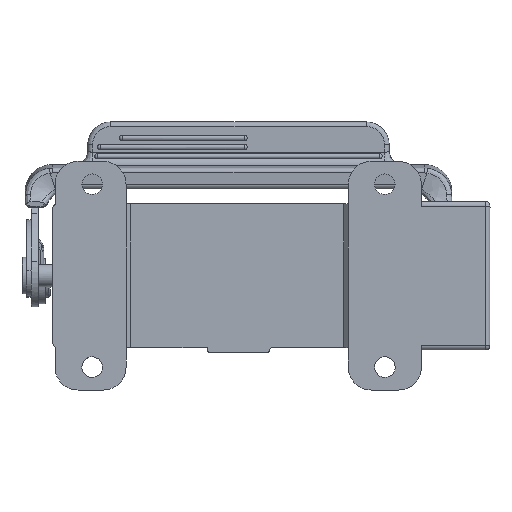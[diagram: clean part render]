
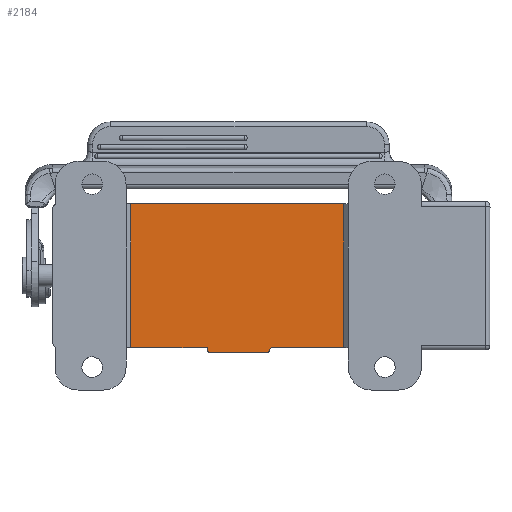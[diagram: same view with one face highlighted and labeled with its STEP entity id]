
A CAD part, front view. The second image highlights one B-rep face of the part: STEP entity #2184.
In plain terms, the highlighted planar face has unit normal (0, -1, 0).
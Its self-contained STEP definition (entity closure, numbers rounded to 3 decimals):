
#421 = VECTOR ( 'NONE', #30953, 1000. ) ;
#2184 = ADVANCED_FACE ( 'NONE', ( #8416 ), #13503, .F. ) ;
#2457 = DIRECTION ( 'NONE',  ( -1., 0., 0. ) ) ;
#2558 = CARTESIAN_POINT ( 'NONE',  ( -2.8, -57.5, 15.727 ) ) ;
#2633 = CARTESIAN_POINT ( 'NONE',  ( -6.848, -57.5, -16.228 ) ) ;
#2960 = VECTOR ( 'NONE', #37948, 1000. ) ;
#4666 = VERTEX_POINT ( 'NONE', #27623 ) ;
#4748 = LINE ( 'NONE', #2558, #2960 ) ;
#5296 = ORIENTED_EDGE ( 'NONE', *, *, #46732, .F. ) ;
#5665 = EDGE_CURVE ( 'NONE', #6158, #9005, #44951, .T. ) ;
#6158 = VERTEX_POINT ( 'NONE', #33244 ) ;
#6347 = CARTESIAN_POINT ( 'NONE',  ( -23.6, -57.5, 15.727 ) ) ;
#8416 = FACE_OUTER_BOUND ( 'NONE', #9937, .T. ) ;
#9005 = VERTEX_POINT ( 'NONE', #2633 ) ;
#9429 = ORIENTED_EDGE ( 'NONE', *, *, #5665, .F. ) ;
#9937 = EDGE_LOOP ( 'NONE', ( #46971, #19804, #9429, #32932, #50491, #19765, #34633, #41178, #5296, #19544 ) ) ;
#10084 = VERTEX_POINT ( 'NONE', #16036 ) ;
#10873 = LINE ( 'NONE', #50943, #421 ) ;
#10910 = CARTESIAN_POINT ( 'NONE',  ( 7.09, -57.5, -15.78 ) ) ;
#11439 = CARTESIAN_POINT ( 'NONE',  ( 6.951, -57.5, -15.921 ) ) ;
#11609 = CARTESIAN_POINT ( 'NONE',  ( 7.348, -57.5, -15.727 ) ) ;
#11640 = CARTESIAN_POINT ( 'NONE',  ( -6.479, -57.5, -16.728 ) ) ;
#13503 = PLANE ( 'NONE',  #22951 ) ;
#14044 = CARTESIAN_POINT ( 'NONE',  ( -23.6, -57.5, -0.5 ) ) ;
#14442 = CARTESIAN_POINT ( 'NONE',  ( 6.609, -57.5, -16.674 ) ) ;
#14983 = CARTESIAN_POINT ( 'NONE',  ( 6.848, -57.5, -16.228 ) ) ;
#15146 = CARTESIAN_POINT ( 'NONE',  ( 6.848, -57.5, -16.359 ) ) ;
#15232 = CARTESIAN_POINT ( 'NONE',  ( 6.348, -57.5, -16.728 ) ) ;
#16036 = CARTESIAN_POINT ( 'NONE',  ( 23., -57.5, 15.727 ) ) ;
#16038 = CARTESIAN_POINT ( 'NONE',  ( 6.848, -57.5, -16.228 ) ) ;
#16491 = VERTEX_POINT ( 'NONE', #24582 ) ;
#17036 = LINE ( 'NONE', #41774, #25590 ) ;
#18316 = VERTEX_POINT ( 'NONE', #6347 ) ;
#18838 = CARTESIAN_POINT ( 'NONE',  ( 6.915, -57.5, -15.975 ) ) ;
#19193 = CARTESIAN_POINT ( 'NONE',  ( 6.864, -57.5, -16.097 ) ) ;
#19544 = ORIENTED_EDGE ( 'NONE', *, *, #42336, .F. ) ;
#19765 = ORIENTED_EDGE ( 'NONE', *, *, #38794, .T. ) ;
#19804 = ORIENTED_EDGE ( 'NONE', *, *, #35290, .T. ) ;
#20981 = VECTOR ( 'NONE', #30226, 1000. ) ;
#21251 = DIRECTION ( 'NONE',  ( 0., 0., -1. ) ) ;
#22519 = VECTOR ( 'NONE', #40778, 1000. ) ;
#22951 = AXIS2_PLACEMENT_3D ( 'NONE', #36890, #29155, #40818 ) ;
#23027 = CARTESIAN_POINT ( 'NONE',  ( -6.848, -57.5, -15.727 ) ) ;
#23046 = CARTESIAN_POINT ( 'NONE',  ( 6.794, -57.5, -16.489 ) ) ;
#23498 = CARTESIAN_POINT ( 'NONE',  ( -6.348, -57.5, -16.728 ) ) ;
#24108 = CARTESIAN_POINT ( 'NONE',  ( -0.3, -57.5, -16.728 ) ) ;
#24582 = CARTESIAN_POINT ( 'NONE',  ( 7.348, -57.5, -15.727 ) ) ;
#24680 = LINE ( 'NONE', #14044, #20981 ) ;
#25590 = VECTOR ( 'NONE', #2457, 1000. ) ;
#26436 = VERTEX_POINT ( 'NONE', #15232 ) ;
#27623 = CARTESIAN_POINT ( 'NONE',  ( 23., -57.5, -15.727 ) ) ;
#27807 = VERTEX_POINT ( 'NONE', #16038 ) ;
#28555 = DIRECTION ( 'NONE',  ( -1., 0., 0. ) ) ;
#28720 = VERTEX_POINT ( 'NONE', #28909 ) ;
#28909 = CARTESIAN_POINT ( 'NONE',  ( -23.6, -57.5, -15.727 ) ) ;
#29155 = DIRECTION ( 'NONE',  ( 0., 1., 0. ) ) ;
#29475 = EDGE_CURVE ( 'NONE', #26436, #6158, #40802, .T. ) ;
#29566 = LINE ( 'NONE', #36713, #38176 ) ;
#30226 = DIRECTION ( 'NONE',  ( 0., 0., 1. ) ) ;
#30631 = EDGE_CURVE ( 'NONE', #4666, #16491, #10873, .T. ) ;
#30696 = CARTESIAN_POINT ( 'NONE',  ( 6.873, -57.5, -16.068 ) ) ;
#30898 = B_SPLINE_CURVE_WITH_KNOTS ( 'NONE', 3,
 ( #46854, #34804, #46496, #19193, #30696, #42369, #18838, #11439, #38784, #10910, #38428, #11609 ),
 .UNSPECIFIED., .F., .F.,
 ( 4, 2, 2, 2, 2, 4 ),
 ( 0., 0.125, 0.25, 0.375, 0.5, 1. ),
 .UNSPECIFIED. ) ;
#30953 = DIRECTION ( 'NONE',  ( -1., 0., 0. ) ) ;
#31230 = CARTESIAN_POINT ( 'NONE',  ( -6.848, -57.5, -16.228 ) ) ;
#31447 = EDGE_CURVE ( 'NONE', #27807, #26436, #47332, .T. ) ;
#32932 = ORIENTED_EDGE ( 'NONE', *, *, #29475, .F. ) ;
#33244 = CARTESIAN_POINT ( 'NONE',  ( -6.348, -57.5, -16.728 ) ) ;
#34633 = ORIENTED_EDGE ( 'NONE', *, *, #30631, .F. ) ;
#34804 = CARTESIAN_POINT ( 'NONE',  ( 6.848, -57.5, -16.194 ) ) ;
#34898 = CARTESIAN_POINT ( 'NONE',  ( 6.479, -57.5, -16.728 ) ) ;
#35290 = EDGE_CURVE ( 'NONE', #49345, #9005, #45871, .T. ) ;
#36713 = CARTESIAN_POINT ( 'NONE',  ( 23., -57.5, -0.5 ) ) ;
#36890 = CARTESIAN_POINT ( 'NONE',  ( -0.3, -57.5, -0.5 ) ) ;
#37343 = CARTESIAN_POINT ( 'NONE',  ( -6.848, -57.5, -15.471 ) ) ;
#37948 = DIRECTION ( 'NONE',  ( 1., 0., 0. ) ) ;
#38176 = VECTOR ( 'NONE', #21251, 1000. ) ;
#38428 = CARTESIAN_POINT ( 'NONE',  ( 7.216, -57.5, -15.727 ) ) ;
#38784 = CARTESIAN_POINT ( 'NONE',  ( 6.971, -57.5, -15.898 ) ) ;
#38794 = EDGE_CURVE ( 'NONE', #27807, #16491, #30898, .T. ) ;
#39847 = EDGE_CURVE ( 'NONE', #10084, #4666, #29566, .T. ) ;
#40778 = DIRECTION ( 'NONE',  ( 0., 0., -1. ) ) ;
#40802 = LINE ( 'NONE', #24108, #43880 ) ;
#40818 = DIRECTION ( 'NONE',  ( 0., 0., 1. ) ) ;
#41178 = ORIENTED_EDGE ( 'NONE', *, *, #39847, .F. ) ;
#41774 = CARTESIAN_POINT ( 'NONE',  ( -0.3, -57.5, -15.727 ) ) ;
#42336 = EDGE_CURVE ( 'NONE', #28720, #18316, #24680, .T. ) ;
#42369 = CARTESIAN_POINT ( 'NONE',  ( 6.9, -57.5, -16.005 ) ) ;
#43077 = CARTESIAN_POINT ( 'NONE',  ( -6.609, -57.5, -16.674 ) ) ;
#43257 = EDGE_CURVE ( 'NONE', #49345, #28720, #17036, .T. ) ;
#43880 = VECTOR ( 'NONE', #28555, 1000. ) ;
#44951 = B_SPLINE_CURVE_WITH_KNOTS ( 'NONE', 3,
 ( #23498, #11640, #43077, #46710, #51049, #31230 ),
 .UNSPECIFIED., .F., .F.,
 ( 4, 2, 4 ),
 ( 0., 0.5, 1. ),
 .UNSPECIFIED. ) ;
#45871 = LINE ( 'NONE', #37343, #22519 ) ;
#46496 = CARTESIAN_POINT ( 'NONE',  ( 6.851, -57.5, -16.161 ) ) ;
#46710 = CARTESIAN_POINT ( 'NONE',  ( -6.794, -57.5, -16.489 ) ) ;
#46732 = EDGE_CURVE ( 'NONE', #18316, #10084, #4748, .T. ) ;
#46854 = CARTESIAN_POINT ( 'NONE',  ( 6.848, -57.5, -16.228 ) ) ;
#46971 = ORIENTED_EDGE ( 'NONE', *, *, #43257, .F. ) ;
#47332 = B_SPLINE_CURVE_WITH_KNOTS ( 'NONE', 3,
 ( #14983, #15146, #23046, #14442, #34898, #50612 ),
 .UNSPECIFIED., .F., .F.,
 ( 4, 2, 4 ),
 ( 0., 0.5, 1. ),
 .UNSPECIFIED. ) ;
#49345 = VERTEX_POINT ( 'NONE', #23027 ) ;
#50491 = ORIENTED_EDGE ( 'NONE', *, *, #31447, .F. ) ;
#50612 = CARTESIAN_POINT ( 'NONE',  ( 6.348, -57.5, -16.728 ) ) ;
#50943 = CARTESIAN_POINT ( 'NONE',  ( -0.3, -57.5, -15.727 ) ) ;
#51049 = CARTESIAN_POINT ( 'NONE',  ( -6.848, -57.5, -16.359 ) ) ;
